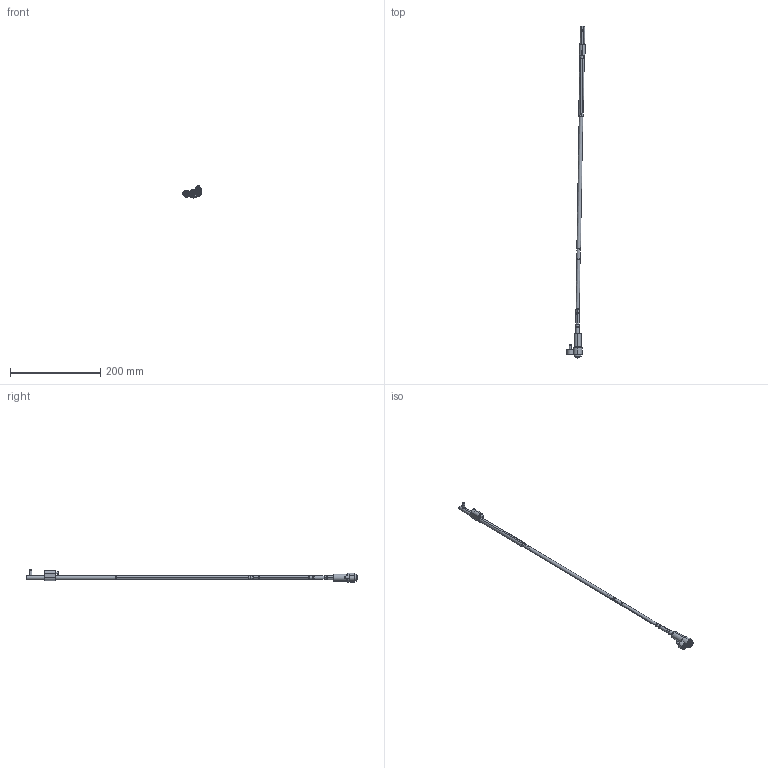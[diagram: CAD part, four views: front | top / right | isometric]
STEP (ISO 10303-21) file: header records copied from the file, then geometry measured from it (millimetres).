
FILE_DESCRIPTION (( 'STEP AP214' ), '1' );
FILE_NAME ('WL080100L-EJE 1°.STEP', '2021-03-19T15:24:12', ( '' ), ( '' ), 'SwSTEP 2.0', 'SolidWorks 2019', '' );
FILE_SCHEMA (( 'AUTOMOTIVE_DESIGN' ));
Length unit declared in the file: millimetre
Products named in the file (17): 9DR2206-TOR; WL080100-D; Web-WL08-F01; WL080100L-EJE 1°; Web-WL08-F00.SLDPRT; 1DIN912545_DIN 912 M5 x 50 --- 50C; 1DIN912616_DIN 912 M6 x 16 --- 16C; WL080100-C; Web-WP08-1; 3IMAN4X2-150_con sello; Web-WL08-A3; WL080100-B1_WL0800FF-1; Web-WL08-A1; WL080100-B_WL0800FF; Web-WL08-A2; Web-WL08XX-A7_ON-WL080100-1; WL080100-E
Assembly tree (16 placements, depth 3):
  WL080100L-EJE 1°
    Web-WP08-1
    Web-WL08XX-A7_ON-WL080100-1
    Web-WL08-A3
    Web-WL08-A2
    Web-WL08-A1
    WL080100-D
    WL080100-C
    WL080100-B_WL0800FF
      WL080100-B1_WL0800FF-1
      3IMAN4X2-150_con sello
    WL080100-E
    9DR2206-TOR
    Web-WL08-F00.SLDPRT
      Web-WL08-F01
      1DIN912545_DIN 912 M5 x 50 --- 50C
      1DIN912616_DIN 912 M6 x 16 --- 16C
Bounding box: 40.67 x 736.99 x 26.9 mm (x, y, z)
Volume: 57313.6 mm3; surface area: 33636.1 mm2
Topology: 15 solids, 15 shells, 424 faces, 888 edges, 516 vertices
Faces by surface type: plane 132, cylinder 128, cone 116, torus 48
Entity records: 13492 total; most frequent: DIRECTION 2218, CARTESIAN_POINT 2045, ORIENTED_EDGE 1756, AXIS2_PLACEMENT_3D 921, EDGE_CURVE 878, VERTEX_POINT 516, CIRCLE 476, EDGE_LOOP 468
